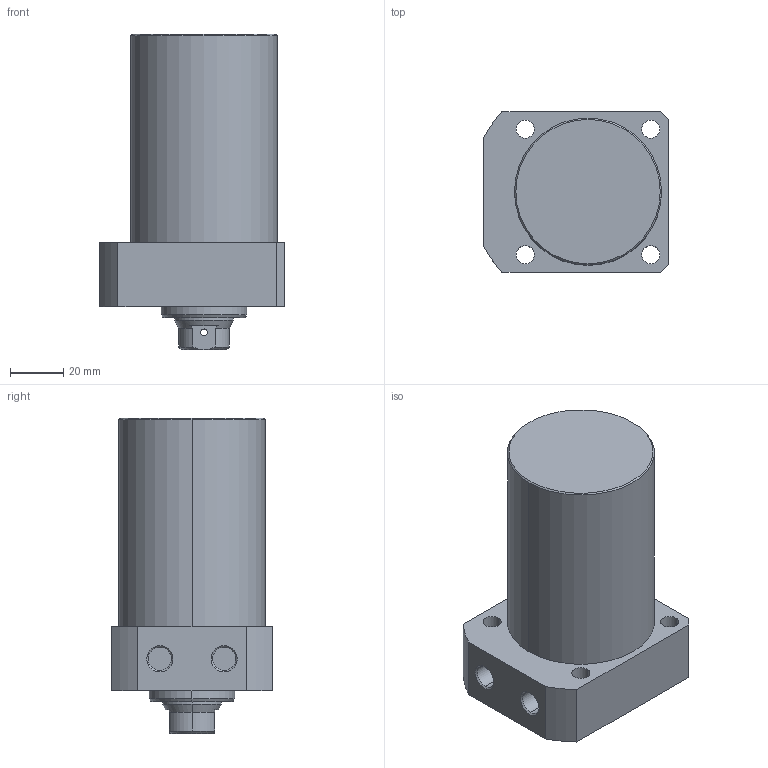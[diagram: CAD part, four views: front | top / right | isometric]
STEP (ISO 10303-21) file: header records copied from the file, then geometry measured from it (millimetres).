
FILE_DESCRIPTION (( 'STEP AP203' ), '1' );
FILE_NAME ('CLLR-055CB-065.STEP', '2019-12-19T07:52:35', ( '' ), ( '' ), 'SwSTEP 2.0', 'SolidWorks 2015', '' );
FILE_SCHEMA (( 'CONFIG_CONTROL_DESIGN' ));
Length unit declared in the file: millimetre
Products named in the file (1): CLLR-055CB-065
Bounding box: 69 x 60 x 118 mm (x, y, z)
Volume: 282911.8 mm3; surface area: 31704 mm2
Topology: 1 solids, 1 shells, 69 faces, 163 edges, 102 vertices
Faces by surface type: cylinder 33, plane 19, cone 17
Entity records: 2183 total; most frequent: CARTESIAN_POINT 453, DIRECTION 368, ORIENTED_EDGE 322, EDGE_CURVE 161, AXIS2_PLACEMENT_3D 149, VERTEX_POINT 102, EDGE_LOOP 89, CIRCLE 79
